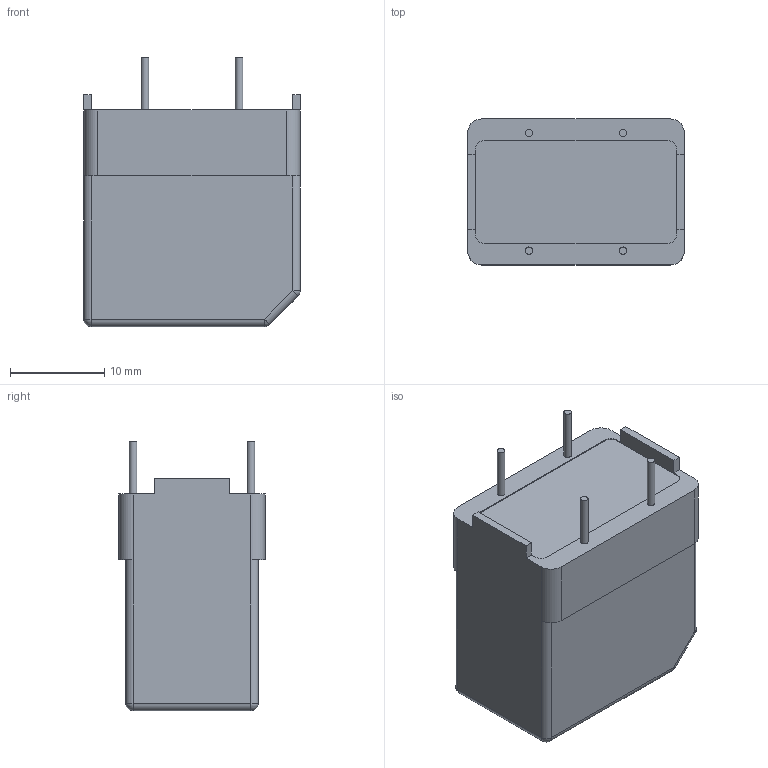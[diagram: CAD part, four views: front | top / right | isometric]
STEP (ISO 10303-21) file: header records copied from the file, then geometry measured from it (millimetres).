
FILE_DESCRIPTION((''),'2;1');
FILE_NAME('K:\CAD-PDM\Library\Inventor\3D format STEP file\3D RN-series\RN216.stp','2016-07-08T14:13:35',('jittrapon.maneerat'),(''),'Autodesk Inventor 2013','Autodesk Inventor 2013','');
FILE_SCHEMA(('AUTOMOTIVE_DESIGN { 1 0 10303 214 1 1 1 1 }'));
Length unit declared in the file: millimetre
Products named in the file (1): Part2
Bounding box: 23 x 15.5 x 28.61 mm (x, y, z)
Volume: 3713.2 mm3; surface area: 3990 mm2
Topology: 1 solids, 6 shells, 241 faces, 597 edges, 382 vertices
Faces by surface type: plane 159, cylinder 38, bspline 36, sphere 8
Full cylindrical faces by diameter (mm): 0.76 x4, 0.8 x4
Entity records: 7570 total; most frequent: CARTESIAN_POINT 1791, ORIENTED_EDGE 1166, DIRECTION 1011, EDGE_CURVE 583, VECTOR 439, LINE 439, VERTEX_POINT 382, AXIS2_PLACEMENT_3D 286
